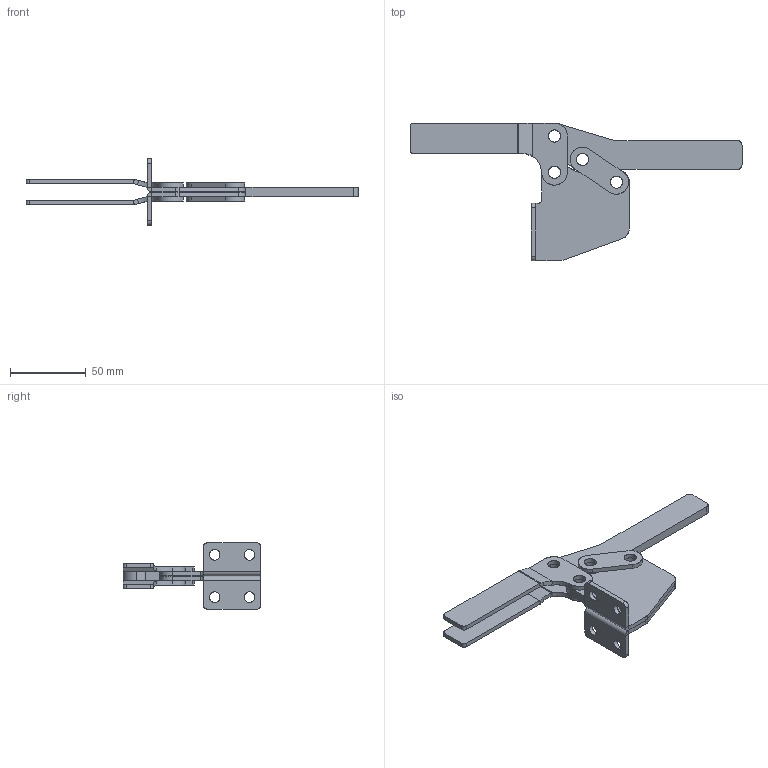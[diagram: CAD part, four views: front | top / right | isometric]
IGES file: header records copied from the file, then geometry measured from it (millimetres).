
Start section: SolidWorks IGES file using analytic representation for surfaces
Global section: file name: D:\GH Files\GH-SW-FILES\GH2\25383\25383.IGS; native system: SolidWorks 2007; preprocessor: SolidWorks 2007; author: Administrator; date: 061019.110005; units: millimetre
Bounding box: 219.5 x 91 x 44 mm (x, y, z)
Surface area: 39386 mm2 (no closed solid volume)
Topology: 0 solids, 0 shells, 164 faces, 2566 edges, 2566 vertices
Faces by surface type: revolution 87, bspline 77
